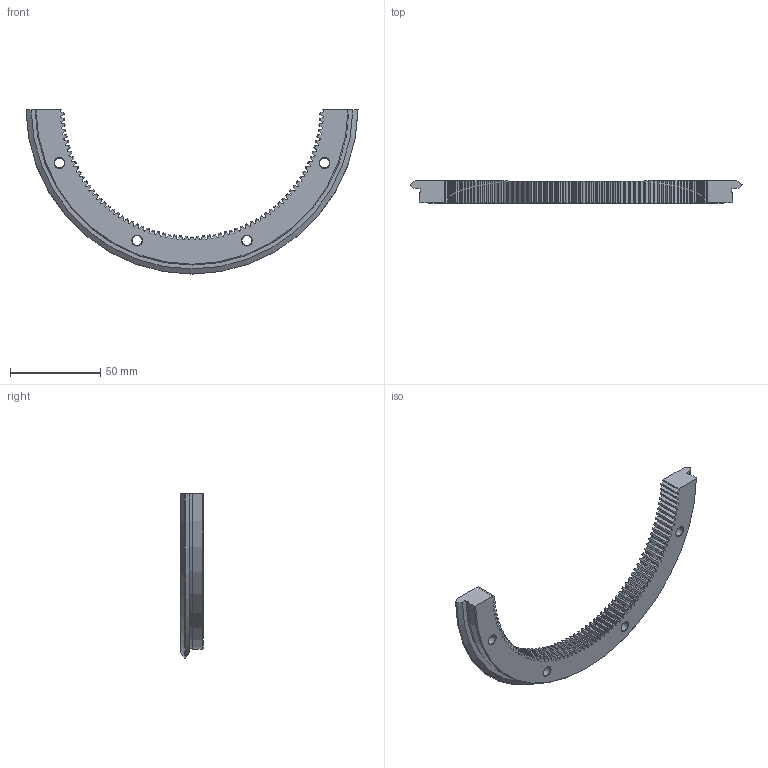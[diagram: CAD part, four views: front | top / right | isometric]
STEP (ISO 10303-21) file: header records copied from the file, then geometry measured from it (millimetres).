
FILE_DESCRIPTION( ( 'STEP AP203' ), '1' );
FILE_NAME( 'p:/temp/worker_44/temp/exporttempdir_4748_333_qi6CS/format_0/RES 184 R180 Q.stp', '2021-08-30T05:06:45', ( 'License CC BY-ND 4.0' ), ( 'CADENAS' ), ' ', 'PARTsolutions', ' ' );
FILE_SCHEMA( ( 'CONFIG_CONTROL_DESIGN' ) );
Length unit declared in the file: millimetre
Products named in the file (1): _RES 184 R180 Q
Bounding box: 183.99 x 12.25 x 91 mm (x, y, z)
Volume: 47755.9 mm3; surface area: 19600.6 mm2
Topology: 1 solids, 1 shells, 386 faces, 1136 edges, 756 vertices
Faces by surface type: plane 154, cylinder 153, cone 78, torus 1
Full cylindrical faces by diameter (mm): 5.5 x4, 10 x4
Entity records: 13120 total; most frequent: CARTESIAN_POINT 2730, ORIENTED_EDGE 2248, DIRECTION 2134, EDGE_CURVE 1124, AXIS2_PLACEMENT_3D 773, VERTEX_POINT 757, LINE 588, VECTOR 588
